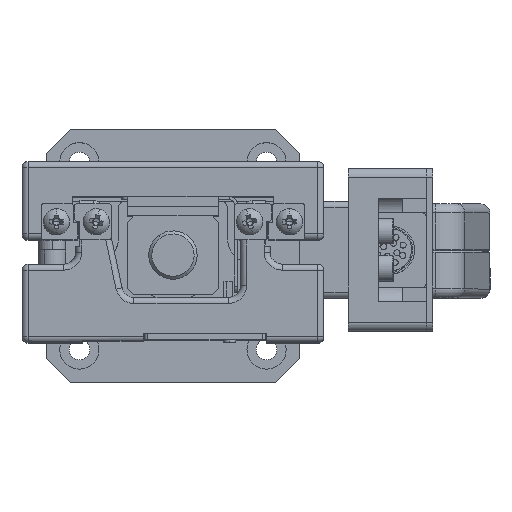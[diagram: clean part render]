
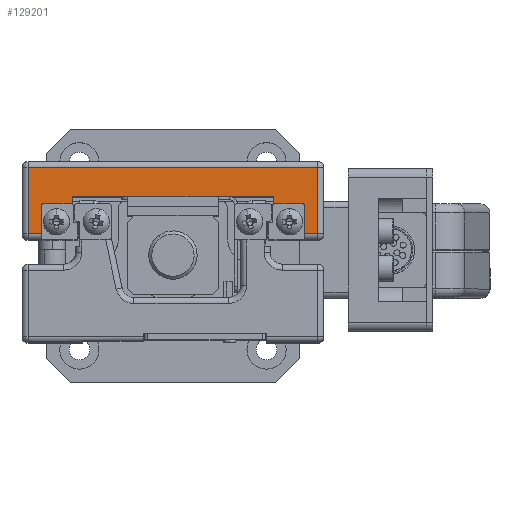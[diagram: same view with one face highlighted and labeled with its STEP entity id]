
A CAD part, top view. The second image highlights one B-rep face of the part: STEP entity #129201.
In plain terms, the highlighted planar face has unit normal (0, 0, 1).
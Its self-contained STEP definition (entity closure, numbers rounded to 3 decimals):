
#1328 = CARTESIAN_POINT ( 'NONE',  ( -24., 18., 27.5 ) ) ;
#2605 = CARTESIAN_POINT ( 'NONE',  ( 24., 18., 27.5 ) ) ;
#4287 = DIRECTION ( 'NONE',  ( 1., 0., 0. ) ) ;
#7571 = VECTOR ( 'NONE', #48322, 1000. ) ;
#9410 = CARTESIAN_POINT ( 'NONE',  ( -25., 33.3, 27.5 ) ) ;
#10709 = VERTEX_POINT ( 'NONE', #84979 ) ;
#11128 = EDGE_CURVE ( 'NONE', #99160, #120138, #53657, .T. ) ;
#11811 = EDGE_CURVE ( 'NONE', #10709, #179231, #55350, .T. ) ;
#12056 = EDGE_CURVE ( 'NONE', #28258, #118280, #83010, .T. ) ;
#12227 = CARTESIAN_POINT ( 'NONE',  ( -21.75, 22.7, 27.5 ) ) ;
#13199 = CARTESIAN_POINT ( 'NONE',  ( 21.75, 23., 27.5 ) ) ;
#16994 = EDGE_CURVE ( 'NONE', #102153, #145387, #126679, .T. ) ;
#19129 = CARTESIAN_POINT ( 'NONE',  ( 21.45, 23., 27.5 ) ) ;
#19714 = CARTESIAN_POINT ( 'NONE',  ( -21.45, 23., 27.5 ) ) ;
#21788 = VERTEX_POINT ( 'NONE', #129191 ) ;
#21835 = AXIS2_PLACEMENT_3D ( 'NONE', #145408, #91009, #90119 ) ;
#21874 = DIRECTION ( 'NONE',  ( 1., 0., 0. ) ) ;
#23553 = VERTEX_POINT ( 'NONE', #19129 ) ;
#24243 = EDGE_CURVE ( 'NONE', #120138, #155527, #171971, .T. ) ;
#25503 = ORIENTED_EDGE ( 'NONE', *, *, #114862, .T. ) ;
#26454 = ORIENTED_EDGE ( 'NONE', *, *, #135703, .T. ) ;
#26525 = CARTESIAN_POINT ( 'NONE',  ( 21.75, 23., 27.5 ) ) ;
#27474 = VERTEX_POINT ( 'NONE', #122445 ) ;
#27616 = EDGE_CURVE ( 'NONE', #23553, #118280, #31868, .T. ) ;
#27708 = DIRECTION ( 'NONE',  ( 0., 1., 0. ) ) ;
#28258 = VERTEX_POINT ( 'NONE', #137182 ) ;
#29810 = EDGE_CURVE ( 'NONE', #28258, #93151, #176909, .T. ) ;
#31868 = CIRCLE ( 'NONE', #37721, 0.3 ) ;
#32265 = LINE ( 'NONE', #142829, #55377 ) ;
#33676 = CARTESIAN_POINT ( 'NONE',  ( 24., 33.3, 27.5 ) ) ;
#35485 = ORIENTED_EDGE ( 'NONE', *, *, #16994, .F. ) ;
#35697 = ORIENTED_EDGE ( 'NONE', *, *, #37897, .T. ) ;
#35854 = DIRECTION ( 'NONE',  ( 0., 1., 0. ) ) ;
#36193 = VECTOR ( 'NONE', #70493, 1000. ) ;
#36396 = DIRECTION ( 'NONE',  ( 0., 1., 0. ) ) ;
#37721 = AXIS2_PLACEMENT_3D ( 'NONE', #62222, #143843, #48654 ) ;
#37897 = EDGE_CURVE ( 'NONE', #179231, #40718, #126677, .T. ) ;
#39209 = DIRECTION ( 'NONE',  ( -1., 0., 0. ) ) ;
#40482 = CARTESIAN_POINT ( 'NONE',  ( -21.75, 23., 27.5 ) ) ;
#40718 = VERTEX_POINT ( 'NONE', #1328 ) ;
#43283 = CARTESIAN_POINT ( 'NONE',  ( -24., 33.3, 27.5 ) ) ;
#45462 = VECTOR ( 'NONE', #27708, 1000. ) ;
#47268 = LINE ( 'NONE', #33676, #70754 ) ;
#48322 = DIRECTION ( 'NONE',  ( 1., 0., 0. ) ) ;
#48533 = ORIENTED_EDGE ( 'NONE', *, *, #167618, .T. ) ;
#48654 = DIRECTION ( 'NONE',  ( -1., 0., 0. ) ) ;
#49985 = CARTESIAN_POINT ( 'NONE',  ( -25., 18., 27.5 ) ) ;
#50067 = DIRECTION ( 'NONE',  ( 1., 0., 0. ) ) ;
#50237 = PLANE ( 'NONE',  #147831 ) ;
#52908 = DIRECTION ( 'NONE',  ( -1., 0., 0. ) ) ;
#53657 = CIRCLE ( 'NONE', #21835, 0.3 ) ;
#54852 = ORIENTED_EDGE ( 'NONE', *, *, #69319, .T. ) ;
#55350 = LINE ( 'NONE', #61331, #140973 ) ;
#55377 = VECTOR ( 'NONE', #35854, 1000. ) ;
#56905 = CARTESIAN_POINT ( 'NONE',  ( -16.6, 17., 27.5 ) ) ;
#60371 = EDGE_CURVE ( 'NONE', #21788, #124535, #173921, .T. ) ;
#60481 = CARTESIAN_POINT ( 'NONE',  ( -21.75, 23., 27.5 ) ) ;
#61331 = CARTESIAN_POINT ( 'NONE',  ( -25., 29., 27.5 ) ) ;
#62222 = CARTESIAN_POINT ( 'NONE',  ( 21.45, 22.7, 27.5 ) ) ;
#63717 = DIRECTION ( 'NONE',  ( 0., 0., -1. ) ) ;
#64489 = ORIENTED_EDGE ( 'NONE', *, *, #11128, .T. ) ;
#64749 = CARTESIAN_POINT ( 'NONE',  ( -16.6, 22.866, 27.5 ) ) ;
#69229 = ORIENTED_EDGE ( 'NONE', *, *, #24243, .T. ) ;
#69319 = EDGE_CURVE ( 'NONE', #93151, #10709, #47268, .T. ) ;
#70493 = DIRECTION ( 'NONE',  ( 0., -1., 0. ) ) ;
#70754 = VECTOR ( 'NONE', #36396, 1000. ) ;
#75529 = CARTESIAN_POINT ( 'NONE',  ( -16.85, 22.7, 27.5 ) ) ;
#78135 = EDGE_LOOP ( 'NONE', ( #26454, #64489, #69229, #25503, #35485, #104343, #116015, #173248, #119372, #91176, #141966, #96630, #54852, #134095, #35697, #48533 ) ) ;
#83010 = LINE ( 'NONE', #13199, #45462 ) ;
#83625 = VECTOR ( 'NONE', #39209, 1000. ) ;
#84979 = CARTESIAN_POINT ( 'NONE',  ( 24., 29., 27.5 ) ) ;
#87106 = AXIS2_PLACEMENT_3D ( 'NONE', #137397, #96608, #122027 ) ;
#89154 = CARTESIAN_POINT ( 'NONE',  ( -16.85, 23., 27.5 ) ) ;
#89385 = VECTOR ( 'NONE', #50067, 1000. ) ;
#90119 = DIRECTION ( 'NONE',  ( 1., 0., 0. ) ) ;
#90272 = CARTESIAN_POINT ( 'NONE',  ( -24., 29., 27.5 ) ) ;
#91009 = DIRECTION ( 'NONE',  ( 0., 0., -1. ) ) ;
#91176 = ORIENTED_EDGE ( 'NONE', *, *, #27616, .T. ) ;
#92247 = CARTESIAN_POINT ( 'NONE',  ( -16.6, 24.2, 27.5 ) ) ;
#93151 = VERTEX_POINT ( 'NONE', #2605 ) ;
#96608 = DIRECTION ( 'NONE',  ( 0., 0., -1. ) ) ;
#96630 = ORIENTED_EDGE ( 'NONE', *, *, #29810, .T. ) ;
#97021 = DIRECTION ( 'NONE',  ( -1., 0., 0. ) ) ;
#97974 = EDGE_CURVE ( 'NONE', #21788, #27474, #32265, .T. ) ;
#99160 = VERTEX_POINT ( 'NONE', #12227 ) ;
#102153 = VERTEX_POINT ( 'NONE', #92247 ) ;
#104343 = ORIENTED_EDGE ( 'NONE', *, *, #140001, .T. ) ;
#104662 = CARTESIAN_POINT ( 'NONE',  ( 16.85, 23., 27.5 ) ) ;
#106407 = DIRECTION ( 'NONE',  ( 0., 0., -1. ) ) ;
#108004 = CARTESIAN_POINT ( 'NONE',  ( -25., 18., 27.5 ) ) ;
#108081 = LINE ( 'NONE', #26525, #83625 ) ;
#109917 = CIRCLE ( 'NONE', #130237, 0.3 ) ;
#114862 = EDGE_CURVE ( 'NONE', #155527, #145387, #109917, .T. ) ;
#116015 = ORIENTED_EDGE ( 'NONE', *, *, #97974, .F. ) ;
#117171 = LINE ( 'NONE', #171618, #7571 ) ;
#118280 = VERTEX_POINT ( 'NONE', #171494 ) ;
#119372 = ORIENTED_EDGE ( 'NONE', *, *, #150827, .F. ) ;
#120138 = VERTEX_POINT ( 'NONE', #19714 ) ;
#121187 = LINE ( 'NONE', #40482, #157865 ) ;
#122027 = DIRECTION ( 'NONE',  ( -1., 0., 0. ) ) ;
#122445 = CARTESIAN_POINT ( 'NONE',  ( 16.6, 24.2, 27.5 ) ) ;
#124535 = VERTEX_POINT ( 'NONE', #104662 ) ;
#126677 = LINE ( 'NONE', #43283, #36193 ) ;
#126679 = LINE ( 'NONE', #56905, #165998 ) ;
#128487 = VECTOR ( 'NONE', #21874, 1000. ) ;
#129191 = CARTESIAN_POINT ( 'NONE',  ( 16.6, 22.866, 27.5 ) ) ;
#129201 = ADVANCED_FACE ( 'NONE', ( #159945 ), #50237, .F. ) ;
#130237 = AXIS2_PLACEMENT_3D ( 'NONE', #75529, #63717, #145332 ) ;
#134095 = ORIENTED_EDGE ( 'NONE', *, *, #11811, .T. ) ;
#135703 = EDGE_CURVE ( 'NONE', #139087, #99160, #121187, .T. ) ;
#137182 = CARTESIAN_POINT ( 'NONE',  ( 21.75, 18., 27.5 ) ) ;
#137397 = CARTESIAN_POINT ( 'NONE',  ( 16.85, 22.7, 27.5 ) ) ;
#137468 = DIRECTION ( 'NONE',  ( 0., 1., 0. ) ) ;
#139087 = VERTEX_POINT ( 'NONE', #160029 ) ;
#139385 = DIRECTION ( 'NONE',  ( 0., -1., 0. ) ) ;
#140001 = EDGE_CURVE ( 'NONE', #102153, #27474, #117171, .T. ) ;
#140973 = VECTOR ( 'NONE', #97021, 1000. ) ;
#141966 = ORIENTED_EDGE ( 'NONE', *, *, #12056, .F. ) ;
#142829 = CARTESIAN_POINT ( 'NONE',  ( 16.6, 17., 27.5 ) ) ;
#143843 = DIRECTION ( 'NONE',  ( 0., 0., -1. ) ) ;
#145332 = DIRECTION ( 'NONE',  ( 1., 0., 0. ) ) ;
#145387 = VERTEX_POINT ( 'NONE', #64749 ) ;
#145408 = CARTESIAN_POINT ( 'NONE',  ( -21.45, 22.7, 27.5 ) ) ;
#147831 = AXIS2_PLACEMENT_3D ( 'NONE', #9410, #106407, #52908 ) ;
#150827 = EDGE_CURVE ( 'NONE', #23553, #124535, #108081, .T. ) ;
#155527 = VERTEX_POINT ( 'NONE', #89154 ) ;
#157865 = VECTOR ( 'NONE', #137468, 1000. ) ;
#159945 = FACE_OUTER_BOUND ( 'NONE', #78135, .T. ) ;
#160029 = CARTESIAN_POINT ( 'NONE',  ( -21.75, 18., 27.5 ) ) ;
#160564 = LINE ( 'NONE', #49985, #128487 ) ;
#165998 = VECTOR ( 'NONE', #139385, 1000. ) ;
#167618 = EDGE_CURVE ( 'NONE', #40718, #139087, #160564, .T. ) ;
#170745 = VECTOR ( 'NONE', #4287, 1000. ) ;
#171494 = CARTESIAN_POINT ( 'NONE',  ( 21.75, 22.7, 27.5 ) ) ;
#171618 = CARTESIAN_POINT ( 'NONE',  ( -16.2, 24.2, 27.5 ) ) ;
#171971 = LINE ( 'NONE', #60481, #170745 ) ;
#173248 = ORIENTED_EDGE ( 'NONE', *, *, #60371, .T. ) ;
#173921 = CIRCLE ( 'NONE', #87106, 0.3 ) ;
#176909 = LINE ( 'NONE', #108004, #89385 ) ;
#179231 = VERTEX_POINT ( 'NONE', #90272 ) ;
